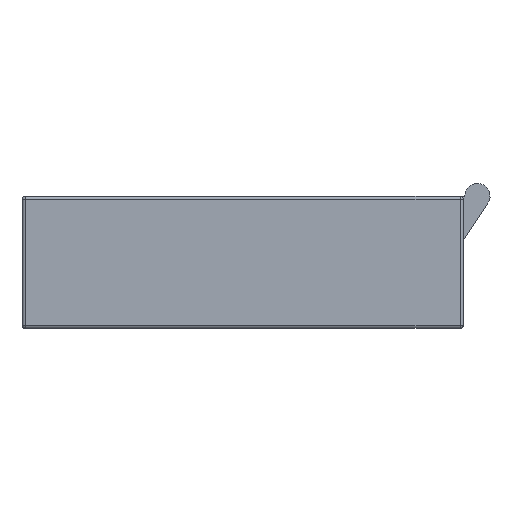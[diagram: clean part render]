
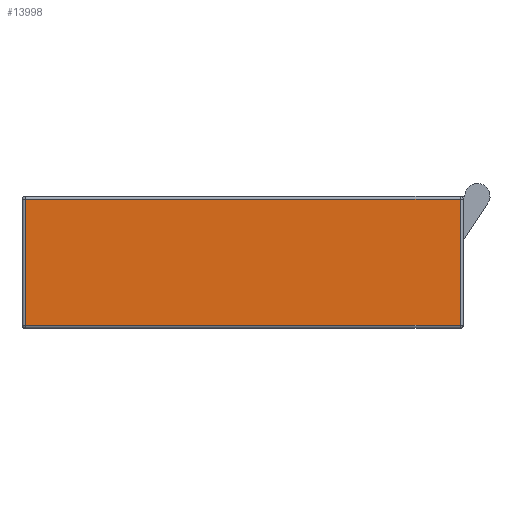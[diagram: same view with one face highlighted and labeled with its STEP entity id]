
A CAD part, front view. The second image highlights one B-rep face of the part: STEP entity #13998.
In plain terms, the highlighted planar face has unit normal (0, -1, 0).
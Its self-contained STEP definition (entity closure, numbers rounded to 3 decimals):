
#741=PLANE('',#14629);
#2094=LINE('',#25970,#3463);
#2096=LINE('',#25997,#3465);
#2099=LINE('',#26001,#3468);
#2108=LINE('',#26025,#3477);
#3463=VECTOR('',#17124,10.);
#3465=VECTOR('',#17160,10.);
#3468=VECTOR('',#17165,10.);
#3477=VECTOR('',#17200,10.);
#4251=FACE_OUTER_BOUND('',#5047,.T.);
#5047=EDGE_LOOP('',(#12915,#12916,#12917,#12918));
#7091=VERTEX_POINT('',#25958);
#7092=VERTEX_POINT('',#25962);
#7097=VERTEX_POINT('',#25978);
#7102=VERTEX_POINT('',#25993);
#9119=EDGE_CURVE('',#7092,#7091,#2094,.T.);
#9132=EDGE_CURVE('',#7097,#7102,#2096,.T.);
#9135=EDGE_CURVE('',#7102,#7092,#2099,.T.);
#9149=EDGE_CURVE('',#7091,#7097,#2108,.T.);
#12915=ORIENTED_EDGE('',*,*,#9132,.F.);
#12916=ORIENTED_EDGE('',*,*,#9149,.F.);
#12917=ORIENTED_EDGE('',*,*,#9119,.F.);
#12918=ORIENTED_EDGE('',*,*,#9135,.F.);
#13998=ADVANCED_FACE('',(#4251),#741,.T.);
#14629=AXIS2_PLACEMENT_3D('',#26030,#17207,#17208);
#17124=DIRECTION('',(0.,0.,1.));
#17160=DIRECTION('',(0.,0.,-1.));
#17165=DIRECTION('',(-1.,0.,0.));
#17200=DIRECTION('',(1.,0.,0.));
#17207=DIRECTION('center_axis',(0.,-1.,0.));
#17208=DIRECTION('ref_axis',(1.,0.,0.));
#25958=CARTESIAN_POINT('',(-69.,-80.,39.));
#25962=CARTESIAN_POINT('',(-69.,-80.,-1.));
#25970=CARTESIAN_POINT('',(-69.,-80.,0.));
#25978=CARTESIAN_POINT('',(69.,-80.,39.));
#25993=CARTESIAN_POINT('',(69.,-80.,-1.));
#25997=CARTESIAN_POINT('',(69.,-80.,0.));
#26001=CARTESIAN_POINT('',(-35.,-80.,-1.));
#26025=CARTESIAN_POINT('',(-35.,-80.,39.));
#26030=CARTESIAN_POINT('Origin',(-70.,-80.,0.));
